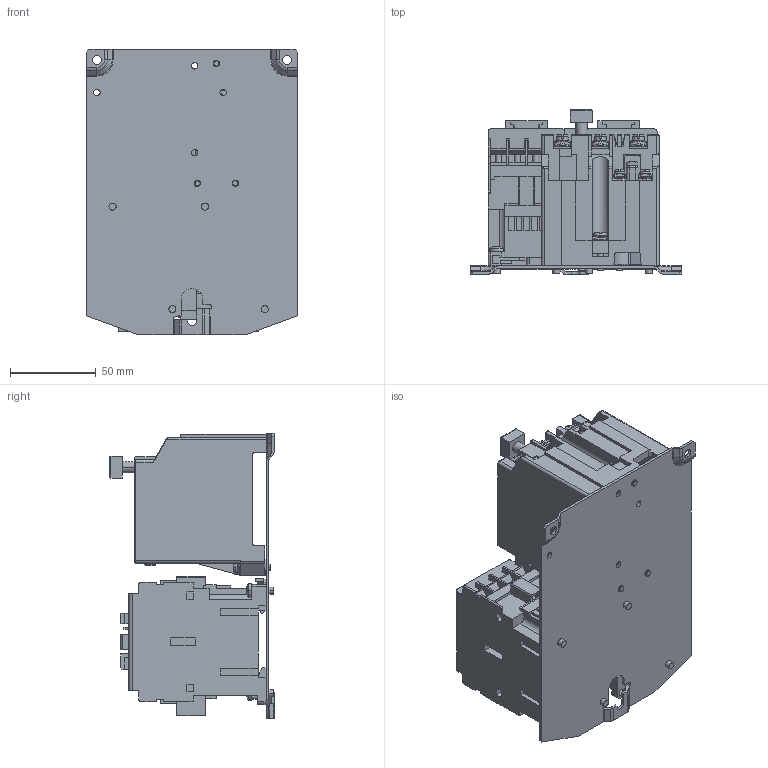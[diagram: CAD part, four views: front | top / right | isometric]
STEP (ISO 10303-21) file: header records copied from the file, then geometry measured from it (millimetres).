
FILE_DESCRIPTION((''),'2;1');
FILE_NAME('10008767817','2025-10-29T13:15:51',('SN5'),('Rockwell Automation'),'CREO PARAMETRIC BY PTC INC, 2022424','CREO PARAMETRIC BY PTC INC, 2022424','');
FILE_SCHEMA(('AUTOMOTIVE_DESIGN { 1 0 10303 214 1 1 1 1 }'));
Products named in the file (1): 10008767817
Bounding box: 123.7 x 96.27 x 166.62 mm (x, y, z)
Volume: 397159.1 mm3; surface area: 199434.2 mm2
Topology: 2 solids, 3 shells, 3084 faces, 8281 edges, 5349 vertices
Faces by surface type: plane 1963, cylinder 781, cone 262, torus 49, sphere 20, bspline 9
Entity records: 161835 total; most frequent: CARTESIAN_POINT 37672, ORIENTED_EDGE 16556, DIRECTION 15556, PRESENTATION_STYLE_ASSIGNMENT 11365, STYLED_ITEM 8281, CURVE_STYLE 8278, EDGE_CURVE 8278, VECTOR 5874
